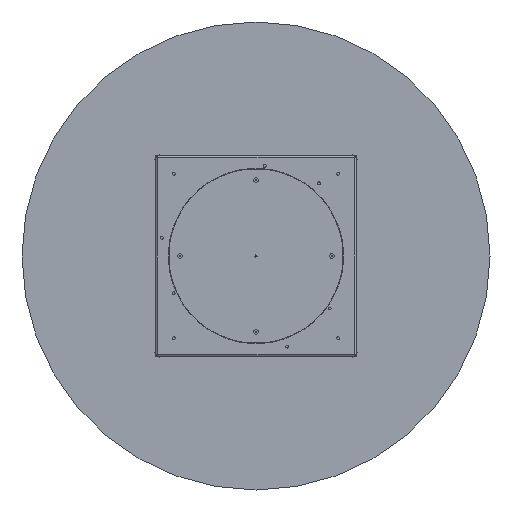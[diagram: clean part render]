
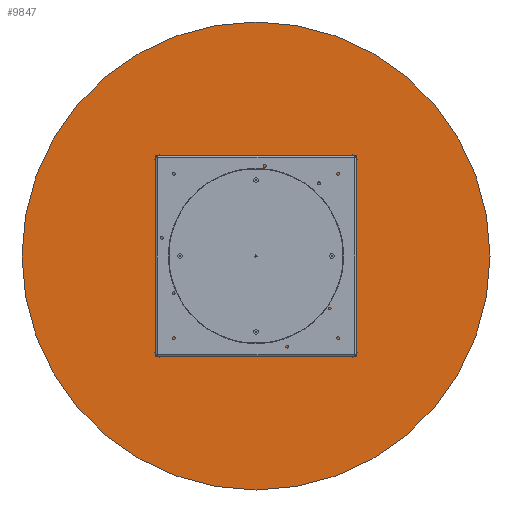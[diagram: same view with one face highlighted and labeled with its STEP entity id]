
A CAD part, front view. The second image highlights one B-rep face of the part: STEP entity #9847.
In plain terms, the highlighted planar face has unit normal (0, -1, 0).
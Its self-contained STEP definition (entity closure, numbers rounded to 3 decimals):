
#167 = CARTESIAN_POINT ( 'NONE',  ( 0., 0., 800. ) ) ;
#429 = CARTESIAN_POINT ( 'NONE',  ( 0., 0., 0. ) ) ;
#1828 = DIRECTION ( 'NONE',  ( 0., 0., -1. ) ) ;
#2039 = CARTESIAN_POINT ( 'NONE',  ( 0., 0., -800. ) ) ;
#2074 = EDGE_CURVE ( 'NONE', #4339, #3485, #13034, .T. ) ;
#2169 = ORIENTED_EDGE ( 'NONE', *, *, #2074, .T. ) ;
#2354 = DIRECTION ( 'NONE',  ( 0., 0., -1. ) ) ;
#2366 = DIRECTION ( 'NONE',  ( 0., 0., -1. ) ) ;
#2420 = AXIS2_PLACEMENT_3D ( 'NONE', #429, #5829, #2366 ) ;
#2891 = CARTESIAN_POINT ( 'NONE',  ( 0., 0., 0. ) ) ;
#3170 = CIRCLE ( 'NONE', #11769, 800. ) ;
#3413 = FACE_OUTER_BOUND ( 'NONE', #9741, .T. ) ;
#3485 = VERTEX_POINT ( 'NONE', #167 ) ;
#3545 = CARTESIAN_POINT ( 'NONE',  ( 0., 0., 0. ) ) ;
#3615 = DIRECTION ( 'NONE',  ( 0., -1., 0. ) ) ;
#4209 = EDGE_CURVE ( 'NONE', #3485, #4339, #3170, .T. ) ;
#4339 = VERTEX_POINT ( 'NONE', #2039 ) ;
#5829 = DIRECTION ( 'NONE',  ( 0., -1., 0. ) ) ;
#9741 = EDGE_LOOP ( 'NONE', ( #2169, #13866 ) ) ;
#9847 = ADVANCED_FACE ( 'NONE', ( #3413 ), #12123, .T. ) ;
#11082 = AXIS2_PLACEMENT_3D ( 'NONE', #3545, #3615, #2354 ) ;
#11538 = DIRECTION ( 'NONE',  ( 0., -1., 0. ) ) ;
#11769 = AXIS2_PLACEMENT_3D ( 'NONE', #2891, #11538, #1828 ) ;
#12123 = PLANE ( 'NONE',  #11082 ) ;
#13034 = CIRCLE ( 'NONE', #2420, 800. ) ;
#13866 = ORIENTED_EDGE ( 'NONE', *, *, #4209, .T. ) ;
